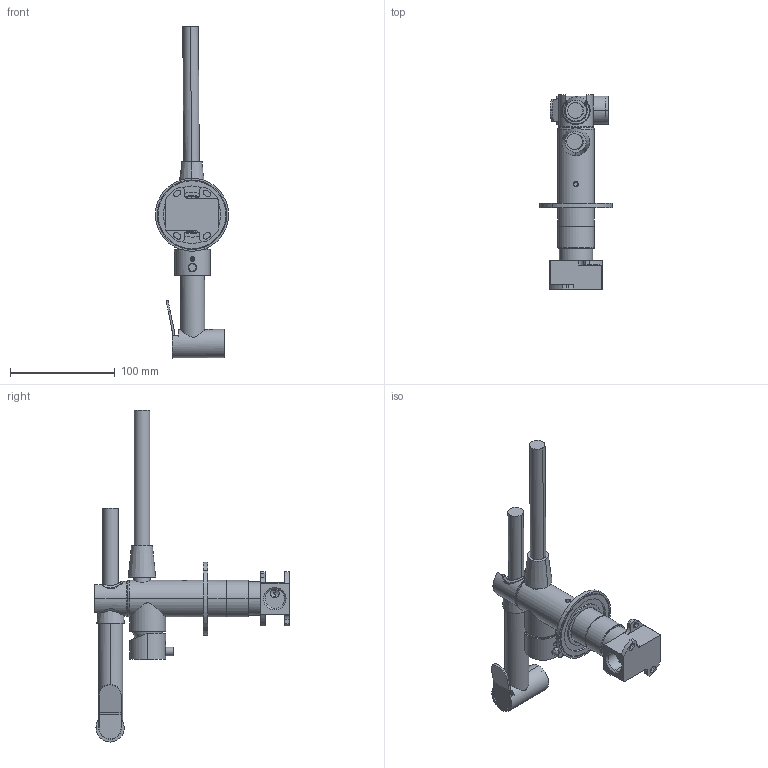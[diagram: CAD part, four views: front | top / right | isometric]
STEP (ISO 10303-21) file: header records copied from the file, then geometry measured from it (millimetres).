
FILE_DESCRIPTION (( 'STEP AP203' ), '1' );
FILE_NAME ('IDR6.STEP', '2024-03-26T07:35:18', ( '' ), ( '' ), 'SwSTEP 2.0', 'SolidWorks 2023', '' );
FILE_SCHEMA (( 'CONFIG_CONTROL_DESIGN' ));
Length unit declared in the file: millimetre
Products named in the file (26): 177647.STEP; 177583.STEP; OR serie_050525.STEP; 177458.STEP; C45.00.0002; Assieme; 177356d.STEP; 177581.STEP; Corpo.STEP; OR serie_050704.STEP; 319208.STEP; OR serie_050649.STEP; FLEXCL150 IDROSCOPINO 5; GRANI serie_050627.STEP; 177203.STEP; Assieme.STEP; 177586.STEP; canotto prolunga.STEP; 775222.STEP; 177296.STEP; a015075_00700zz.STEP; codoli tenuta.STEP; GRANI serie_050607.STEP; 177588.STEP; 575401.STEP; IDR6
Assembly tree (29 placements, depth 4):
  IDR6
    C45.00.0002
    FLEXCL150 IDROSCOPINO 5
    Assieme
      Assieme.STEP
        177581.STEP
        OR serie_050525.STEP  x4
        Corpo.STEP
        177583.STEP
        177356d.STEP
        177296.STEP
        319208.STEP
        177203.STEP
        775222.STEP
        OR serie_050704.STEP
        177588.STEP
        GRANI serie_050607.STEP
        GRANI serie_050627.STEP
        177458.STEP
        OR serie_050649.STEP
        177586.STEP
        575401.STEP
        canotto prolunga.STEP
        codoli tenuta.STEP  x2
        177647.STEP
        a015075_00700zz.STEP
Bounding box: 69.99 x 185.8 x 317.71 mm (x, y, z)
Volume: 298825.2 mm3; surface area: 137112.9 mm2
Topology: 41 solids, 41 shells, 1430 faces, 3490 edges, 2191 vertices
Faces by surface type: plane 511, cylinder 369, bspline 244, cone 232, torus 74
Entity records: 60678 total; most frequent: CARTESIAN_POINT 27612, ORIENTED_EDGE 6554, DIRECTION 5827, EDGE_CURVE 3277, AXIS2_PLACEMENT_3D 2178, VERTEX_POINT 2075, EDGE_LOOP 1484, VECTOR 1471
